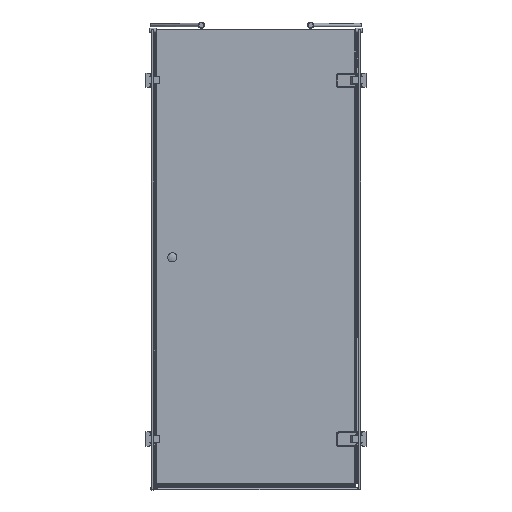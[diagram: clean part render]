
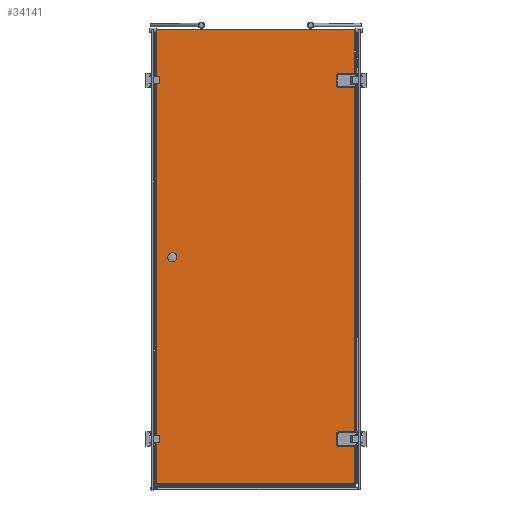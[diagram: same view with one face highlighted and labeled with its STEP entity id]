
A CAD part, left-side view. The second image highlights one B-rep face of the part: STEP entity #34141.
In plain terms, the highlighted planar face has unit normal (-1, 0, 0).
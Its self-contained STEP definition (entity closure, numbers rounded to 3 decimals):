
#506=CIRCLE($,#36170,10.);
#508=CIRCLE($,#36174,10.);
#509=CIRCLE($,#36180,10.);
#510=CIRCLE($,#36181,10.);
#2378=FACE_OUTER_BOUND($,#4162,.T.);
#4162=EDGE_LOOP($,(#23055,#23056,#23057,#23058,#23059,#23060,#23061,#23062,
#23063,#23064,#23065,#23066,#23067,#23068,#23069,#23070,#23071,#23072,#23073,
#23074,#23075));
#6171=LINE($,#49942,#9776);
#6177=LINE($,#49953,#9782);
#6183=LINE($,#49965,#9788);
#6228=LINE($,#50086,#9833);
#6241=LINE($,#50114,#9846);
#6308=LINE($,#50474,#9913);
#6435=LINE($,#50762,#10040);
#6436=LINE($,#50765,#10041);
#6467=LINE($,#50869,#10072);
#6474=LINE($,#50882,#10079);
#6512=LINE($,#50975,#10117);
#6548=LINE($,#51082,#10153);
#6551=LINE($,#51091,#10156);
#6556=LINE($,#51103,#10161);
#6557=LINE($,#51106,#10162);
#6558=LINE($,#51108,#10163);
#6559=LINE($,#51109,#10164);
#9776=VECTOR($,#39872,155.5);
#9782=VECTOR($,#39880,180.5);
#9788=VECTOR($,#39890,1421.);
#9833=VECTOR($,#39995,155.5);
#9846=VECTOR($,#40018,155.5);
#9913=VECTOR($,#40211,2.257);
#10040=VECTOR($,#40454,2.443);
#10041=VECTOR($,#40457,0.4);
#10072=VECTOR($,#40538,66.3);
#10079=VECTOR($,#40547,66.3);
#10117=VECTOR($,#40625,66.3);
#10153=VECTOR($,#40727,66.3);
#10156=VECTOR($,#40738,39.);
#10161=VECTOR($,#40753,39.);
#10162=VECTOR($,#40756,818.7);
#10163=VECTOR($,#40757,1875.4);
#10164=VECTOR($,#40758,823.4);
#13394=VERTEX_POINT($,#49939);
#13395=VERTEX_POINT($,#49941);
#13398=VERTEX_POINT($,#49949);
#13399=VERTEX_POINT($,#49951);
#13402=VERTEX_POINT($,#49961);
#13403=VERTEX_POINT($,#49963);
#13448=VERTEX_POINT($,#50084);
#13449=VERTEX_POINT($,#50085);
#13458=VERTEX_POINT($,#50111);
#13459=VERTEX_POINT($,#50113);
#13637=VERTEX_POINT($,#50764);
#13685=VERTEX_POINT($,#50868);
#13690=VERTEX_POINT($,#50880);
#13725=VERTEX_POINT($,#50974);
#13762=VERTEX_POINT($,#51075);
#13763=VERTEX_POINT($,#51077);
#13765=VERTEX_POINT($,#51086);
#13766=VERTEX_POINT($,#51100);
#13767=VERTEX_POINT($,#51102);
#13768=VERTEX_POINT($,#51105);
#13769=VERTEX_POINT($,#51107);
#16757=EDGE_CURVE($,#13395,#13394,#6171,.T.);
#16763=EDGE_CURVE($,#13398,#13399,#6177,.T.);
#16769=EDGE_CURVE($,#13402,#13403,#6183,.T.);
#16826=EDGE_CURVE($,#13448,#13449,#6228,.T.);
#16840=EDGE_CURVE($,#13459,#13458,#6241,.T.);
#16950=EDGE_CURVE($,#13449,#13395,#6308,.T.);
#17101=EDGE_CURVE($,#13458,#13448,#6435,.T.);
#17102=EDGE_CURVE($,#13637,#13459,#6436,.T.);
#17155=EDGE_CURVE($,#13685,#13402,#6467,.T.);
#17162=EDGE_CURVE($,#13403,#13690,#6474,.T.);
#17209=EDGE_CURVE($,#13725,#13398,#6512,.T.);
#17259=EDGE_CURVE($,#13763,#13762,#506,.T.);
#17262=EDGE_CURVE($,#13394,#13763,#6548,.T.);
#17264=EDGE_CURVE($,#13765,#13685,#508,.T.);
#17267=EDGE_CURVE($,#13762,#13765,#6551,.T.);
#17272=EDGE_CURVE($,#13690,#13766,#509,.T.);
#17273=EDGE_CURVE($,#13766,#13767,#6556,.T.);
#17274=EDGE_CURVE($,#13767,#13725,#510,.T.);
#17275=EDGE_CURVE($,#13768,#13399,#6557,.T.);
#17276=EDGE_CURVE($,#13769,#13768,#6558,.T.);
#17277=EDGE_CURVE($,#13637,#13769,#6559,.T.);
#23055=ORIENTED_EDGE($,*,*,#16757,.T.);
#23056=ORIENTED_EDGE($,*,*,#17262,.T.);
#23057=ORIENTED_EDGE($,*,*,#17259,.T.);
#23058=ORIENTED_EDGE($,*,*,#17267,.T.);
#23059=ORIENTED_EDGE($,*,*,#17264,.T.);
#23060=ORIENTED_EDGE($,*,*,#17155,.T.);
#23061=ORIENTED_EDGE($,*,*,#16769,.T.);
#23062=ORIENTED_EDGE($,*,*,#17162,.T.);
#23063=ORIENTED_EDGE($,*,*,#17272,.T.);
#23064=ORIENTED_EDGE($,*,*,#17273,.T.);
#23065=ORIENTED_EDGE($,*,*,#17274,.T.);
#23066=ORIENTED_EDGE($,*,*,#17209,.T.);
#23067=ORIENTED_EDGE($,*,*,#16763,.T.);
#23068=ORIENTED_EDGE($,*,*,#17275,.F.);
#23069=ORIENTED_EDGE($,*,*,#17276,.F.);
#23070=ORIENTED_EDGE($,*,*,#17277,.F.);
#23071=ORIENTED_EDGE($,*,*,#17102,.T.);
#23072=ORIENTED_EDGE($,*,*,#16840,.T.);
#23073=ORIENTED_EDGE($,*,*,#17101,.T.);
#23074=ORIENTED_EDGE($,*,*,#16826,.T.);
#23075=ORIENTED_EDGE($,*,*,#16950,.T.);
#31157=PLANE($,#36179);
#34141=ADVANCED_FACE($,(#2378),#31157,.T.);
#36170=AXIS2_PLACEMENT_3D($,#51078,#40721,#40722);
#36174=AXIS2_PLACEMENT_3D($,#51087,#40732,#40733);
#36179=AXIS2_PLACEMENT_3D($,#51099,#40749,#40750);
#36180=AXIS2_PLACEMENT_3D($,#51101,#40751,#40752);
#36181=AXIS2_PLACEMENT_3D($,#51104,#40754,#40755);
#39872=DIRECTION($,(0.,0.,1.));
#39880=DIRECTION($,(0.,0.,1.));
#39890=DIRECTION($,(0.,0.,1.));
#39995=DIRECTION($,(0.,0.,-1.));
#40018=DIRECTION($,(0.,0.,1.));
#40211=DIRECTION($,(0.,1.,0.));
#40454=DIRECTION($,(0.,1.,0.));
#40457=DIRECTION($,(0.,0.,1.));
#40538=DIRECTION($,(0.,-1.,0.));
#40547=DIRECTION($,(0.,1.,0.));
#40625=DIRECTION($,(0.,-1.,0.));
#40721=DIRECTION('center_axis',(1.,0.,0.));
#40722=DIRECTION('ref_axis',(0.,0.707,-0.707));
#40727=DIRECTION($,(0.,1.,0.));
#40732=DIRECTION('center_axis',(1.,0.,0.));
#40733=DIRECTION('ref_axis',(0.,0.707,0.707));
#40738=DIRECTION($,(0.,0.,1.));
#40749=DIRECTION('center_axis',(-1.,0.,0.));
#40750=DIRECTION('ref_axis',(0.,-1.,0.));
#40751=DIRECTION('center_axis',(1.,0.,0.));
#40752=DIRECTION('ref_axis',(0.,0.707,-0.707));
#40753=DIRECTION($,(0.,0.,1.));
#40754=DIRECTION('center_axis',(1.,0.,0.));
#40755=DIRECTION('ref_axis',(0.,0.707,0.707));
#40756=DIRECTION($,(0.,-1.,0.));
#40757=DIRECTION($,(0.,0.,1.));
#40758=DIRECTION($,(0.,1.,0.));
#49939=CARTESIAN_POINT('',(2641.294,1404.189,-255.313));
#49941=CARTESIAN_POINT('',(2641.294,1404.189,-410.813));
#49942=CARTESIAN_POINT($,(2641.294,1404.189,-413.313));
#49949=CARTESIAN_POINT('',(2641.294,1404.189,1283.687));
#49951=CARTESIAN_POINT('',(2641.294,1404.189,1464.187));
#49953=CARTESIAN_POINT($,(2641.294,1404.189,-413.313));
#49961=CARTESIAN_POINT('',(2641.294,1404.189,-196.313));
#49963=CARTESIAN_POINT('',(2641.294,1404.189,1224.687));
#49965=CARTESIAN_POINT($,(2641.294,1404.189,-413.313));
#50084=CARTESIAN_POINT('',(2641.294,1401.932,-255.313));
#50085=CARTESIAN_POINT('',(2641.294,1401.932,-410.813));
#50086=CARTESIAN_POINT($,(2641.294,1401.932,-413.313));
#50111=CARTESIAN_POINT('',(2641.294,1399.489,-255.313));
#50113=CARTESIAN_POINT('',(2641.294,1399.489,-410.813));
#50114=CARTESIAN_POINT($,(2641.294,1399.489,-415.813));
#50474=CARTESIAN_POINT($,(2641.294,1814.092,-410.813));
#50762=CARTESIAN_POINT($,(2641.294,1853.989,-255.313));
#50764=CARTESIAN_POINT('',(2641.294,1399.489,-411.213));
#50765=CARTESIAN_POINT($,(2641.294,1399.489,-415.813));
#50868=CARTESIAN_POINT('',(2641.294,1470.489,-196.313));
#50869=CARTESIAN_POINT($,(2641.294,1813.489,-196.313));
#50880=CARTESIAN_POINT('',(2641.294,1470.489,1224.687));
#50882=CARTESIAN_POINT($,(2641.294,1853.989,1224.687));
#50974=CARTESIAN_POINT('',(2641.294,1470.489,1283.687));
#50975=CARTESIAN_POINT($,(2641.294,1813.489,1283.687));
#51075=CARTESIAN_POINT('',(2641.294,1480.489,-245.313));
#51077=CARTESIAN_POINT('',(2641.294,1470.489,-255.313));
#51078=CARTESIAN_POINT('Origin',(2641.294,1470.489,-245.313));
#51082=CARTESIAN_POINT($,(2641.294,1853.989,-255.313));
#51086=CARTESIAN_POINT('',(2641.294,1480.489,-206.313));
#51087=CARTESIAN_POINT('Origin',(2641.294,1470.489,-206.313));
#51091=CARTESIAN_POINT($,(2641.294,1480.489,-306.063));
#51099=CARTESIAN_POINT('Origin',(2641.294,2227.489,-415.813));
#51100=CARTESIAN_POINT('',(2641.294,1480.489,1234.687));
#51101=CARTESIAN_POINT('Origin',(2641.294,1470.489,1234.687));
#51102=CARTESIAN_POINT('',(2641.294,1480.489,1273.687));
#51103=CARTESIAN_POINT($,(2641.294,1480.489,433.937));
#51104=CARTESIAN_POINT('Origin',(2641.294,1470.489,1273.687));
#51105=CARTESIAN_POINT('',(2641.294,2222.889,1464.187));
#51106=CARTESIAN_POINT($,(2641.294,2227.489,1464.187));
#51107=CARTESIAN_POINT('',(2641.294,2222.889,-411.213));
#51108=CARTESIAN_POINT($,(2641.294,2222.889,-415.813));
#51109=CARTESIAN_POINT($,(2641.294,1399.489,-411.213));
